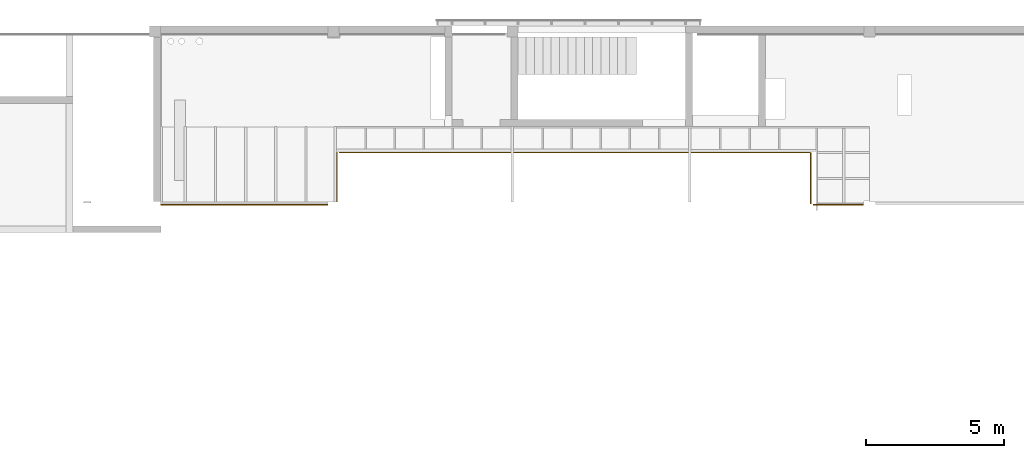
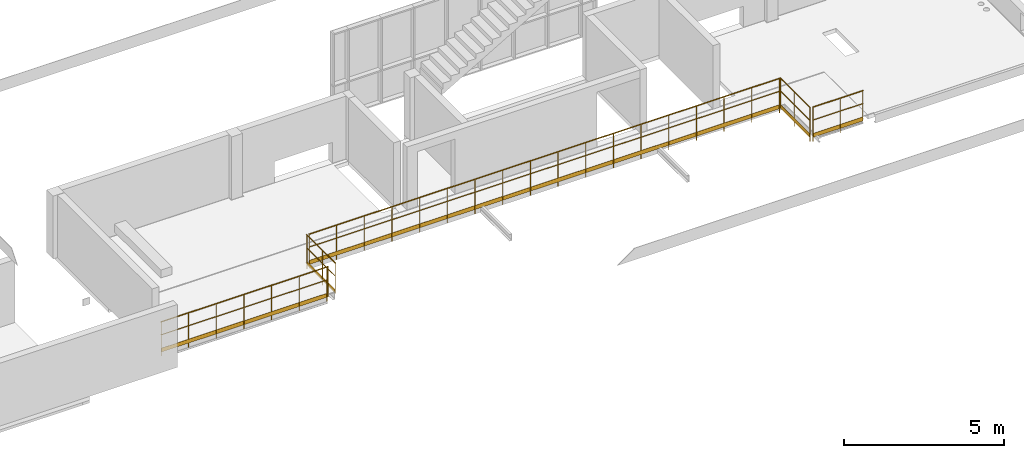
# One storey, part 7 of 8: 5 railings.
"""IFC2X3 building model written with IfcOpenShell, lengths in centimetres."""

from ifc_helpers import new_model, entity, si_unit, converted_unit, derived_unit, direction, frame, frame_2d, origin, origin_2d_with_axis, place, context, subcontext, project, spatial, rectangle, circle, extrude, material, material_list, element, save


model = new_model("IFC2X3")

# Units and contexts
model_context = context("Model", 3, precision=0.001, world=origin(), true_north=direction((6.12303176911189e-17, 1.0)))
body_context = subcontext(model_context, "Body", "Model", "MODEL_VIEW")
ifc_project = project(units=[si_unit("LENGTHUNIT", "METRE", prefix="CENTI"), si_unit("AREAUNIT", "SQUARE_METRE"), si_unit("VOLUMEUNIT", "CUBIC_METRE"), converted_unit("PLANEANGLEUNIT", "DEGREE", entity("IfcRatioMeasure", 0.0174532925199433), si_unit("PLANEANGLEUNIT", "RADIAN"), dimensions=[0, 0, 0, 0, 0, 0, 0]), si_unit("MASSUNIT", "GRAM", prefix="KILO"), derived_unit("MASSDENSITYUNIT", [(si_unit("MASSUNIT", "GRAM", prefix="KILO"), 1), (si_unit("LENGTHUNIT", "METRE"), -3)]), derived_unit("MOMENTOFINERTIAUNIT", [(si_unit("LENGTHUNIT", "METRE"), 4)]), si_unit("TIMEUNIT", "SECOND"), si_unit("FREQUENCYUNIT", "HERTZ"), si_unit("THERMODYNAMICTEMPERATUREUNIT", "DEGREE_CELSIUS"), derived_unit("THERMALTRANSMITTANCEUNIT", [(si_unit("MASSUNIT", "GRAM", prefix="KILO"), 1), (si_unit("THERMODYNAMICTEMPERATUREUNIT", "KELVIN"), -1), (si_unit("TIMEUNIT", "SECOND"), -3)]), derived_unit("VOLUMETRICFLOWRATEUNIT", [(si_unit("LENGTHUNIT", "METRE"), 3), (si_unit("TIMEUNIT", "SECOND"), -1)]), si_unit("ELECTRICCURRENTUNIT", "AMPERE"), si_unit("ELECTRICVOLTAGEUNIT", "VOLT"), si_unit("POWERUNIT", "WATT"), si_unit("FORCEUNIT", "NEWTON", prefix="KILO"), si_unit("ILLUMINANCEUNIT", "LUX"), si_unit("LUMINOUSFLUXUNIT", "LUMEN"), si_unit("LUMINOUSINTENSITYUNIT", "CANDELA"), derived_unit("USERDEFINED", [(si_unit("MASSUNIT", "GRAM", prefix="KILO"), -1), (si_unit("LENGTHUNIT", "METRE"), -2), (si_unit("TIMEUNIT", "SECOND"), 3), (si_unit("LUMINOUSFLUXUNIT", "LUMEN"), 1)]), derived_unit("LINEARVELOCITYUNIT", [(si_unit("LENGTHUNIT", "METRE"), 1), (si_unit("TIMEUNIT", "SECOND"), -1)]), si_unit("PRESSUREUNIT", "PASCAL"), derived_unit("USERDEFINED", [(si_unit("LENGTHUNIT", "METRE"), -2), (si_unit("MASSUNIT", "GRAM", prefix="KILO"), 1), (si_unit("TIMEUNIT", "SECOND"), -2)]), derived_unit("LINEARFORCEUNIT", [(si_unit("MASSUNIT", "GRAM", prefix="KILO"), 1), (si_unit("LENGTHUNIT", "METRE"), 1), (si_unit("TIMEUNIT", "SECOND"), -2), (si_unit("LENGTHUNIT", "METRE"), -1)]), derived_unit("PLANARFORCEUNIT", [(si_unit("MASSUNIT", "GRAM", prefix="KILO"), 1), (si_unit("LENGTHUNIT", "METRE"), 1), (si_unit("TIMEUNIT", "SECOND"), -2), (si_unit("LENGTHUNIT", "METRE"), -2)])], contexts=[model_context])

# Site, building, storey
site_placement = place(None, origin())
site = spatial("IfcSite", under=ifc_project, at=site_placement, Name="Default", CompositionType="ELEMENT")
building_placement = place(site_placement, origin())
building = spatial("IfcBuilding", under=site, at=building_placement, CompositionType="ELEMENT")
storey_placement = place(building_placement, frame((0.0, 0.0, 290.0)))
storey = spatial("IfcBuildingStorey", under=building, at=storey_placement, Name="Poziom Antresola +2,90", CompositionType="ELEMENT", Elevation=290.0)

# Railings
ifc_material = material(Name="<Unnamed>")
ifc_material_list_1 = material_list([ifc_material, ifc_material, ifc_material, ifc_material, ifc_material, ifc_material, ifc_material, ifc_material, ifc_material, ifc_material, ifc_material])
railing_1_placement = place(storey_placement, origin())
element("IfcRailing", 1, at=railing_1_placement, inside=storey, material=ifc_material_list_1, Name="Poręcz:Rura 1100 SCK", ObjectType="Poręcz:Rura 1100 SCK", PredefinedType="NOTDEFINED", context=body_context, shape_type="SweptSolid", body=[
    extrude(circle(Radius=1.25, at=origin_2d_with_axis()), frame((-1649.32401279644, 1459.92745194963, -19.5), z_axis=(0.0, 0.0, 1.0), x_axis=(0.0, 1.0, 0.0)), (0.0, 0.0, 1.0), 130.0),
    extrude(circle(Radius=1.25, at=origin_2d_with_axis()), frame((-1749.32401279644, 1459.92745194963, -19.5), z_axis=(0.0, 0.0, 1.0), x_axis=(0.0, 1.0, 0.0)), (0.0, 0.0, 1.0), 130.0),
    extrude(circle(Radius=1.25, at=origin_2d_with_axis()), frame((-1849.32401279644, 1459.92745194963, -19.5), z_axis=(0.0, 0.0, 1.0), x_axis=(0.0, 1.0, 0.0)), (0.0, 0.0, 1.0), 130.0),
    extrude(circle(Radius=1.25, at=origin_2d_with_axis()), frame((-1949.32401279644, 1459.92745194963, -19.5), z_axis=(0.0, 0.0, 1.0), x_axis=(0.0, 1.0, 0.0)), (0.0, 0.0, 1.0), 130.0),
    extrude(circle(Radius=1.25, at=origin_2d_with_axis()), frame((-2049.32401279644, 1459.92745194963, -19.5), z_axis=(0.0, 0.0, 1.0), x_axis=(0.0, 1.0, 0.0)), (0.0, 0.0, 1.0), 130.0),
    extrude(circle(Radius=1.25, at=origin_2d_with_axis()), frame((-2149.32401279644, 1459.92745194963, -19.5), z_axis=(0.0, 0.0, 1.0), x_axis=(0.0, 1.0, 0.0)), (0.0, 0.0, 1.0), 130.0),
    extrude(circle(Radius=1.25, at=origin_2d_with_axis()), frame((-1645.57401280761, 1459.92745194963, 12.0), z_axis=(0.0, 0.0, 1.0), x_axis=(0.0, 1.0, 0.0)), (0.0, 0.0, 1.0), 98.5),
    extrude(circle(Radius=1.25, at=origin_2d_with_axis()), frame((-2248.07401279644, 1459.92745194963, -17.5), z_axis=(0.0, 0.0, 1.0), x_axis=(0.0, 1.0, 0.0)), (0.0, 0.0, 1.0), 128.0),
    extrude(circle(Radius=1.5, at=origin_2d_with_axis()), frame((-2249.32401279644, 1459.92745194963, 63.0), z_axis=(1.0, 0.0, 0.0), x_axis=(0.0, -1.0, 0.0)), (0.0, 0.0, 1.0), 604.999999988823),
    extrude(rectangle(XDim=604.999999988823, YDim=0.800000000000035, at=frame_2d((0.0, 2.16549000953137e-13), x_axis=(1.0, 0.0))), frame((-1946.82401280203, 1459.92745194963, -3.0)), (0.0, 0.0, 1.0), 15.0),
    extrude(circle(Radius=2.0, at=origin_2d_with_axis()), frame((-2249.32401279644, 1459.92745194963, 112.5), z_axis=(1.0, 0.0, 0.0), x_axis=(0.0, 1.0, 0.0)), (0.0, 0.0, 1.0), 604.999999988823),
])
ifc_material_list_2 = material_list([ifc_material, ifc_material, ifc_material, ifc_material, ifc_material, ifc_material])
railing_2_placement = place(storey_placement, origin())
element("IfcRailing", 2, at=railing_2_placement, inside=storey, material=ifc_material_list_2, Name="Poręcz:Rura 1100 SCK", ObjectType="Poręcz:Rura 1100 SCK", PredefinedType="NOTDEFINED", context=body_context, shape_type="SweptSolid", body=[
    extrude(circle(Radius=1.25, at=origin_2d_with_axis()), frame((-1613.01270393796, 1549.72338132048, -24.0)), (0.0, 0.0, 1.0), 130.0),
    extrude(circle(Radius=1.25, at=origin_2d_with_axis()), frame((-1613.01270393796, 1471.37745194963, 7.49999999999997)), (0.0, 0.0, 1.0), 98.5),
    extrude(circle(Radius=1.25, at=origin_2d_with_axis()), frame((-1613.01270393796, 1648.47338132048, -22.0)), (0.0, 0.0, 1.0), 128.0),
    extrude(circle(Radius=1.5, at=origin_2d_with_axis()), frame((-1613.01270393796, 1470.12745194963, 58.5), z_axis=(0.0, 1.0, 0.0), x_axis=(-1.0, 0.0, 0.0)), (0.0, 0.0, 1.0), 179.595929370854),
    extrude(rectangle(XDim=179.595929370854, YDim=0.800000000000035, at=origin_2d_with_axis()), frame((-1613.01270393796, 1559.92541663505, -7.50000000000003), z_axis=(0.0, 0.0, 1.0), x_axis=(0.0, -1.0, 0.0)), (0.0, 0.0, 1.0), 15.0),
    extrude(circle(Radius=2.0, at=origin_2d_with_axis()), frame((-1613.01270393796, 1470.12745194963, 108.0), z_axis=(0.0, 1.0, 0.0), x_axis=(1.0, 0.0, 0.0)), (0.0, 0.0, 1.0), 179.595929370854),
])
ifc_material_list_3 = material_list([ifc_material, ifc_material, ifc_material, ifc_material, ifc_material, ifc_material, ifc_material, ifc_material, ifc_material, ifc_material, ifc_material, ifc_material, ifc_material, ifc_material, ifc_material, ifc_material, ifc_material, ifc_material, ifc_material, ifc_material, ifc_material, ifc_material])
railing_3_placement = place(storey_placement, origin())
element("IfcRailing", 3, at=railing_3_placement, inside=storey, material=ifc_material_list_3, Name="Poręcz:Rura 1100 SCK", ObjectType="Poręcz:Rura 1100 SCK", PredefinedType="NOTDEFINED", context=body_context, shape_type="SweptSolid", body=[
    extrude(circle(Radius=1.25, at=origin_2d_with_axis()), frame((94.574819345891, 1648.47338132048, -24.0), z_axis=(0.0, 0.0, 1.0), x_axis=(0.0, 1.0, 0.0)), (0.0, 0.0, 1.0), 130.0),
    extrude(circle(Radius=1.25, at=frame_2d((1.88246735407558e-29, -5.92192961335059e-15), x_axis=(1.0, 0.0))), frame((-5.42518065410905, 1648.47338132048, -24.0), z_axis=(0.0, 0.0, 1.0), x_axis=(0.0, 1.0, 0.0)), (0.0, 0.0, 1.0), 130.0),
    extrude(circle(Radius=1.25, at=origin_2d_with_axis()), frame((-105.425180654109, 1648.47338132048, -24.0), z_axis=(0.0, 0.0, 1.0), x_axis=(0.0, 1.0, 0.0)), (0.0, 0.0, 1.0), 130.0),
    extrude(circle(Radius=1.25, at=origin_2d_with_axis()), frame((-205.425180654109, 1648.47338132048, -24.0), z_axis=(0.0, 0.0, 1.0), x_axis=(0.0, 1.0, 0.0)), (0.0, 0.0, 1.0), 130.0),
    extrude(circle(Radius=1.25, at=origin_2d_with_axis()), frame((-305.425180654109, 1648.47338132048, -24.0), z_axis=(0.0, 0.0, 1.0), x_axis=(0.0, 1.0, 0.0)), (0.0, 0.0, 1.0), 130.0),
    extrude(circle(Radius=1.25, at=origin_2d_with_axis()), frame((-405.425180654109, 1648.47338132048, -24.0), z_axis=(0.0, 0.0, 1.0), x_axis=(0.0, 1.0, 0.0)), (0.0, 0.0, 1.0), 130.0),
    extrude(circle(Radius=1.25, at=origin_2d_with_axis()), frame((-505.425180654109, 1648.47338132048, -24.0), z_axis=(0.0, 0.0, 1.0), x_axis=(0.0, 1.0, 0.0)), (0.0, 0.0, 1.0), 130.0),
    extrude(circle(Radius=1.25, at=origin_2d_with_axis()), frame((-605.425180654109, 1648.47338132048, -24.0), z_axis=(0.0, 0.0, 1.0), x_axis=(0.0, 1.0, 0.0)), (0.0, 0.0, 1.0), 130.0),
    extrude(circle(Radius=1.25, at=origin_2d_with_axis()), frame((-705.425180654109, 1648.47338132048, -24.0), z_axis=(0.0, 0.0, 1.0), x_axis=(0.0, 1.0, 0.0)), (0.0, 0.0, 1.0), 130.0),
    extrude(circle(Radius=1.25, at=origin_2d_with_axis()), frame((-805.425180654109, 1648.47338132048, -24.0), z_axis=(0.0, 0.0, 1.0), x_axis=(0.0, 1.0, 0.0)), (0.0, 0.0, 1.0), 130.0),
    extrude(circle(Radius=1.25, at=origin_2d_with_axis()), frame((-905.425180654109, 1648.47338132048, -24.0), z_axis=(0.0, 0.0, 1.0), x_axis=(0.0, 1.0, 0.0)), (0.0, 0.0, 1.0), 130.0),
    extrude(circle(Radius=1.25, at=origin_2d_with_axis()), frame((-1005.42518065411, 1648.47338132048, -24.0), z_axis=(0.0, 0.0, 1.0), x_axis=(0.0, 1.0, 0.0)), (0.0, 0.0, 1.0), 130.0),
    extrude(circle(Radius=1.25, at=origin_2d_with_axis()), frame((-1105.42518065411, 1648.47338132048, -24.0), z_axis=(0.0, 0.0, 1.0), x_axis=(0.0, 1.0, 0.0)), (0.0, 0.0, 1.0), 130.0),
    extrude(circle(Radius=1.25, at=origin_2d_with_axis()), frame((-1205.42518065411, 1648.47338132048, -24.0), z_axis=(0.0, 0.0, 1.0), x_axis=(0.0, 1.0, 0.0)), (0.0, 0.0, 1.0), 130.0),
    extrude(circle(Radius=1.25, at=origin_2d_with_axis()), frame((-1305.42518065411, 1648.47338132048, -24.0), z_axis=(0.0, 0.0, 1.0), x_axis=(0.0, 1.0, 0.0)), (0.0, 0.0, 1.0), 130.0),
    extrude(circle(Radius=1.25, at=origin_2d_with_axis()), frame((-1405.42518065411, 1648.47338132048, -24.0), z_axis=(0.0, 0.0, 1.0), x_axis=(0.0, 1.0, 0.0)), (0.0, 0.0, 1.0), 130.0),
    extrude(circle(Radius=1.25, at=origin_2d_with_axis()), frame((-1505.42518065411, 1648.47338132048, -24.0), z_axis=(0.0, 0.0, 1.0), x_axis=(0.0, 1.0, 0.0)), (0.0, 0.0, 1.0), 130.0),
    extrude(circle(Radius=1.25, at=origin_2d_with_axis()), frame((96.5848802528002, 1648.47338132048, 7.49999999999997), z_axis=(0.0, 0.0, 1.0), x_axis=(0.0, 1.0, 0.0)), (0.0, 0.0, 1.0), 98.5),
    extrude(circle(Radius=1.25, at=origin_2d_with_axis()), frame((-1604.17518065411, 1648.47338132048, -22.0), z_axis=(0.0, 0.0, 1.0), x_axis=(0.0, 1.0, 0.0)), (0.0, 0.0, 1.0), 128.0),
    extrude(circle(Radius=1.5, at=origin_2d_with_axis()), frame((-1605.42518065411, 1648.47338132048, 58.5), z_axis=(1.0, 0.0, 0.0), x_axis=(0.0, -1.0, 0.0)), (0.0, 0.0, 1.0), 1703.26006090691),
    extrude(rectangle(XDim=1703.26006090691, YDim=0.800000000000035, at=origin_2d_with_axis()), frame((-753.795150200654, 1648.47338132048, -7.50000000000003)), (0.0, 0.0, 1.0), 15.0),
    extrude(circle(Radius=2.0, at=origin_2d_with_axis()), frame((-1605.42518065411, 1648.47338132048, 108.0), z_axis=(1.0, 0.0, 0.0), x_axis=(0.0, 1.0, 0.0)), (0.0, 0.0, 1.0), 1703.26006090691),
])
ifc_material_list_4 = material_list([ifc_material, ifc_material, ifc_material, ifc_material, ifc_material, ifc_material])
railing_4_placement = place(storey_placement, origin())
element("IfcRailing", 4, at=railing_4_placement, inside=storey, material=ifc_material_list_4, Name="Poręcz:Rura 1100 SCK", ObjectType="Poręcz:Rura 1100 SCK", PredefinedType="NOTDEFINED", context=body_context, shape_type="SweptSolid", body=[
    extrude(circle(Radius=1.25, at=origin_2d_with_axis()), frame((98.2348802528, 1562.62745208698, -24.0), z_axis=(0.0, 0.0, 1.0), x_axis=(-1.0, 0.0, 0.0)), (0.0, 0.0, 1.0), 130.0),
    extrude(circle(Radius=1.25, at=origin_2d_with_axis()), frame((98.2348802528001, 1646.82338132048, 7.49999999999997), z_axis=(0.0, 0.0, 1.0), x_axis=(-1.0, 0.0, 0.0)), (0.0, 0.0, 1.0), 98.5),
    extrude(circle(Radius=1.25, at=origin_2d_with_axis()), frame((98.2348802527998, 1463.87745208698, -22.0), z_axis=(0.0, 0.0, 1.0), x_axis=(-1.0, 0.0, 0.0)), (0.0, 0.0, 1.0), 128.0),
    extrude(circle(Radius=1.5, at=origin_2d_with_axis()), frame((98.2348802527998, 1462.62745208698, 58.5), z_axis=(0.0, 1.0, 0.0), x_axis=(1.0, 0.0, 0.0)), (0.0, 0.0, 1.0), 185.445929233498),
    extrude(rectangle(XDim=185.445929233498, YDim=0.799999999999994, at=frame_2d((0.0, 6.77236045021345e-15), x_axis=(1.0, 0.0))), frame((98.2348802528, 1555.35041670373, -7.50000000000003), z_axis=(0.0, 0.0, 1.0), x_axis=(0.0, 1.0, 0.0)), (0.0, 0.0, 1.0), 15.0),
    extrude(circle(Radius=2.0, at=origin_2d_with_axis()), frame((98.2348802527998, 1462.62745208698, 108.0), z_axis=(0.0, 1.0, 0.0), x_axis=(-1.0, 0.0, 0.0)), (0.0, 0.0, 1.0), 185.445929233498),
])
ifc_material_list_5 = material_list([ifc_material, ifc_material, ifc_material, ifc_material, ifc_material, ifc_material])
railing_5_placement = place(storey_placement, origin())
element("IfcRailing", 5, at=railing_5_placement, inside=storey, material=ifc_material_list_5, Name="Poręcz:Rura 1100 SCK", ObjectType="Poręcz:Rura 1100 SCK", PredefinedType="NOTDEFINED", context=body_context, shape_type="SweptSolid", body=[
    extrude(circle(Radius=1.25, at=origin_2d_with_axis()), frame((205.73487890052, 1460.22338129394, -24.0), z_axis=(0.0, 0.0, 1.0), x_axis=(0.0, 1.0, 0.0)), (0.0, 0.0, 1.0), 130.0),
    extrude(circle(Radius=1.25, at=origin_2d_with_axis()), frame((286.984890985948, 1460.22338129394, 7.49999999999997), z_axis=(0.0, 0.0, 1.0), x_axis=(0.0, 1.0, 0.0)), (0.0, 0.0, 1.0), 98.5),
    extrude(circle(Radius=1.25, at=origin_2d_with_axis()), frame((106.98487890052, 1460.22338129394, -22.0), z_axis=(0.0, 0.0, 1.0), x_axis=(0.0, 1.0, 0.0)), (0.0, 0.0, 1.0), 128.0),
    extrude(circle(Radius=1.5, at=origin_2d_with_axis()), frame((105.73487890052, 1460.22338129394, 58.5), z_axis=(1.0, 0.0, 0.0), x_axis=(0.0, -1.0, 0.0)), (0.0, 0.0, 1.0), 182.500012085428),
    extrude(rectangle(XDim=182.500012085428, YDim=0.800000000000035, at=frame_2d((-7.105427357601e-15, 0.0), x_axis=(1.0, 0.0))), frame((196.984884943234, 1460.22338129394, -7.50000000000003)), (0.0, 0.0, 1.0), 15.0),
    extrude(circle(Radius=2.0, at=frame_2d((-4.81890880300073e-29, 0.0), x_axis=(1.0, 0.0))), frame((105.73487890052, 1460.22338129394, 108.0), z_axis=(1.0, 0.0, 0.0), x_axis=(0.0, 1.0, 0.0)), (0.0, 0.0, 1.0), 182.500012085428),
])

save(model, "model.ifc")
